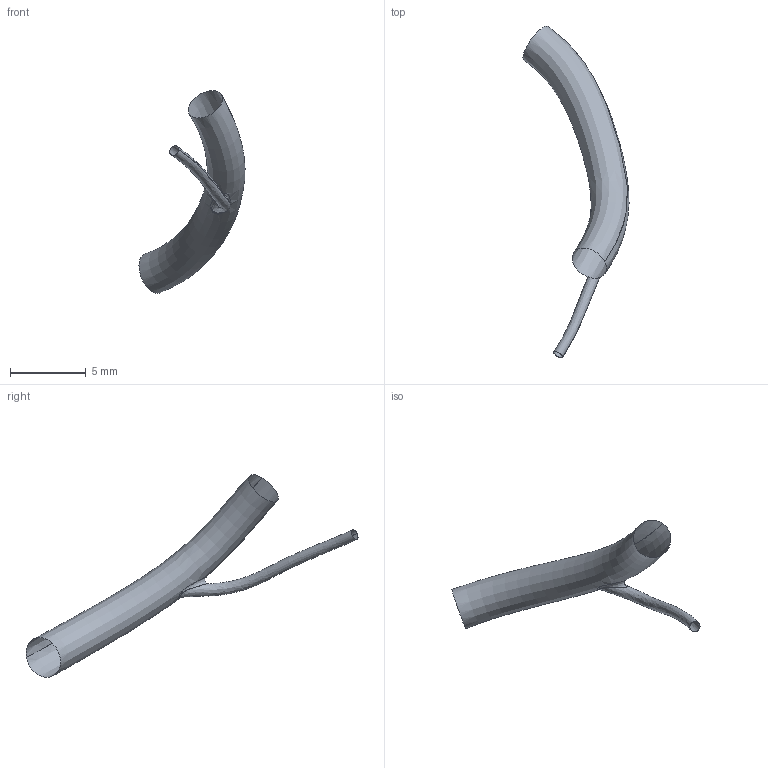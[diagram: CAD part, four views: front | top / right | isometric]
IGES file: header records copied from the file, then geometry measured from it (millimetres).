
Global section: file name: C:\Documents and Settings\Administrator\Desktop\FDA-Pig\Domestic RCA\Pig_000138\rv2.es.igs; native system: Rhinoceros ( May 19 2006 ); preprocessor: Trout Lake IGES 012 May 19 2006; date: 111205.190022; units: centimetre
Bounding box: 7.01 x 21.93 x 13.39 mm (x, y, z)
Surface area: 190.6 mm2 (no closed solid volume)
Topology: 0 solids, 0 shells, 3 faces, 42 edges, 39 vertices
Faces by surface type: bspline 3
